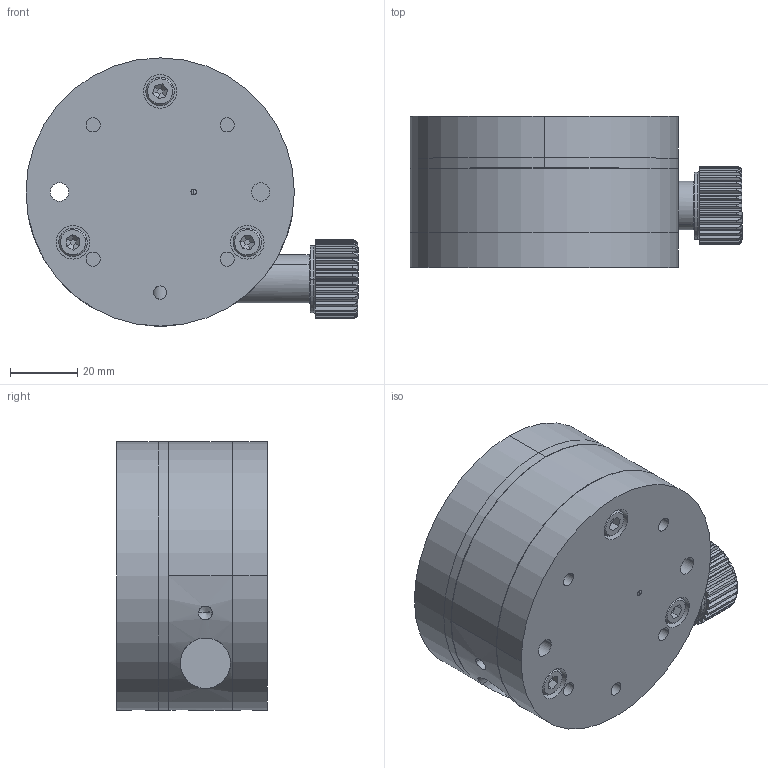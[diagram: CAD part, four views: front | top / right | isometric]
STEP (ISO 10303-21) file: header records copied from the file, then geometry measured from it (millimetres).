
FILE_DESCRIPTION (( 'STEP AP214' ), '1' );
FILE_NAME ('MDV 80 AV1.STEP', '2005-09-22T08:46:21', ( '' ), ( '' ), 'SwSTEP 2.0', 'SolidWorks 2004251', '' );
FILE_SCHEMA (( 'AUTOMOTIVE_DESIGN' ));
Length unit declared in the file: millimetre
Products named in the file (1): MDV 80 AV1
Bounding box: 99 x 45 x 80 mm (x, y, z)
Volume: 223088.6 mm3; surface area: 41326.1 mm2
Topology: 1 solids, 22 shells, 556 faces, 1329 edges, 839 vertices
Faces by surface type: cylinder 306, plane 150, cone 71, torus 23, sphere 6
Entity records: 17587 total; most frequent: CARTESIAN_POINT 4518, DIRECTION 2870, ORIENTED_EDGE 2614, EDGE_CURVE 1307, AXIS2_PLACEMENT_3D 1153, VERTEX_POINT 839, EDGE_LOOP 626, CIRCLE 596
